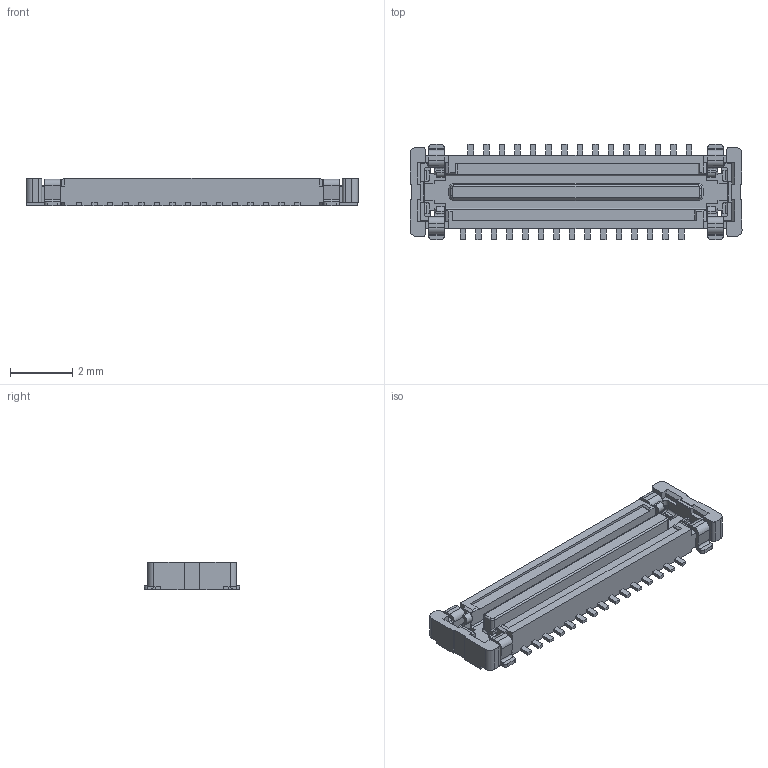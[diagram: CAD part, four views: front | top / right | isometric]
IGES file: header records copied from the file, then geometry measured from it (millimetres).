
Start section: Elysium IGES Interface
Global section: file name: C:\Users\1088\Desktop\P3C164_XSLS00-30\P3C164_XSLS00-30.igs; native system: CoCreate Modeling 17.0B  09-Oct-2010; preprocessor: CoCreate IGES_3D V2.2; author: Unknown; organization: Unknown; date: 20171121.111215; units: millimetre
Bounding box: 10.65 x 3.05 x 0.88 mm (x, y, z)
Volume: 16.7 mm3; surface area: 119.4 mm2
Topology: 1 solids, 1 shells, 505 faces, 1484 edges, 970 vertices
Faces by surface type: bspline 505
